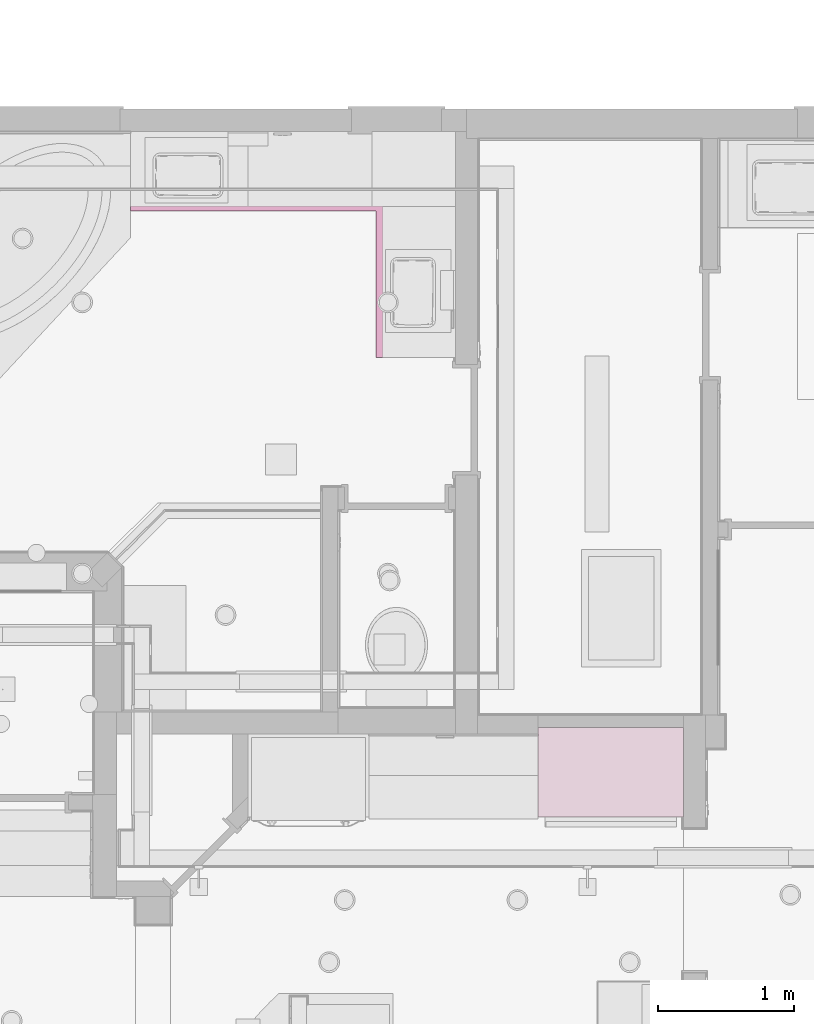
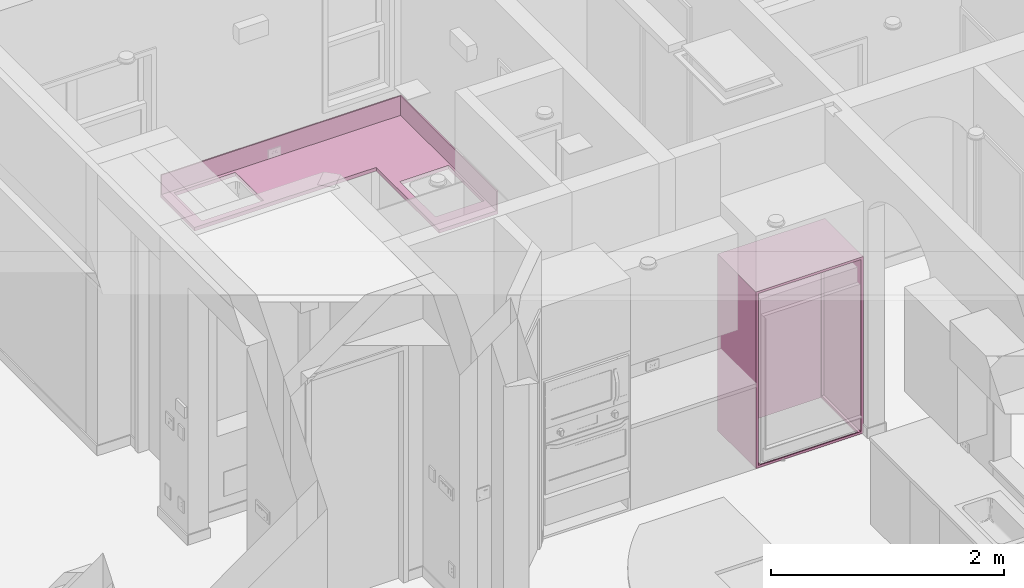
# One storey, part 49 of 60: 2 furnishings.
"""IFC2X3 building model written with IfcOpenShell, lengths in feet."""

from ifc_helpers import new_model, entity, si_unit, converted_unit, direction, frame, origin, place, context, subcontext, project, spatial, faceted_brep, source, transform, mapped, material, type_object, type_shapes, element, save


model = new_model("IFC2X3")

# Units and contexts
model_context = context("Model", 3, precision=0.0001, world=origin(), true_north=direction((6.123031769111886e-17, 1.0)))
plan_context = context("Plan", 3, precision=0.0001, world=origin(), true_north=direction((6.123031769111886e-17, 1.0)))
body_context = subcontext(model_context, "Body", "Model", "MODEL_VIEW")
ifc_project = project(units=[converted_unit("LENGTHUNIT", "FOOT", entity("IfcLengthMeasure", 0.3048), si_unit("LENGTHUNIT", "METRE"), dimensions=[1, 0, 0, 0, 0, 0, 0]), converted_unit("AREAUNIT", "SQUARE FOOT", entity("IfcAreaMeasure", 0.09290304), si_unit("AREAUNIT", "SQUARE_METRE"), dimensions=[2, 0, 0, 0, 0, 0, 0]), converted_unit("PLANEANGLEUNIT", "DEGREE", entity("IfcPlaneAngleMeasure", 0.017453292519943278), si_unit("PLANEANGLEUNIT", "RADIAN"), dimensions=[0, 0, 0, 0, 0, 0, 0])], contexts=[model_context, plan_context])

# Site, building, storey
site_placement = place(None, origin())
site = spatial("IfcSite", under=ifc_project, at=site_placement, Name="Default", CompositionType="ELEMENT")
building_placement = place(site_placement, origin())
building = spatial("IfcBuilding", under=site, at=building_placement, CompositionType="ELEMENT")
storey_placement = place(building_placement, origin())
storey = spatial("IfcBuildingStorey", under=building, at=storey_placement, Name="First floor", CompositionType="ELEMENT", Elevation=0.0)

# Furnishings
ifc_material = material(Name="Default New Material")
furniture_type_1 = type_object("IfcFurnitureType", Name="C_Casework Empty:C_Casework Empty", AssemblyPlace="NOTDEFINED", material=ifc_material)
shared_shape_1 = source(origin(), body_context, "Body", "Brep", [
    faceted_brep([(9.416666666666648, 30.95833333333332, 0.0), (12.916666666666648, 30.95833333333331, 0.0), (12.916666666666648, 30.95833333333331, 6.083333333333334), (9.416666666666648, 30.95833333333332, 6.083333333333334), (12.833333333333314, 30.95833333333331, 6.0), (12.833333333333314, 30.95833333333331, 0.08333333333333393), (9.499999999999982, 30.95833333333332, 0.08333333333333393), (9.499999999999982, 30.95833333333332, 6.0), (9.416666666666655, 33.12499999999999, 6.083333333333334), (9.416666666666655, 33.12499999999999, 0.0), (12.916666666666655, 33.12499999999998, 6.083333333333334), (12.916666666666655, 33.12499999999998, 0.0), (12.749999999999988, 30.994628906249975, 0.0), (12.749999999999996, 33.06787109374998, 0.0), (9.58333333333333, 33.06787109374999, 0.0), (9.583333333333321, 30.99462890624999, 0.0), (9.49999999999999, 33.04166666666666, 6.0), (12.833333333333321, 33.04166666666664, 6.0), (9.49999999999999, 33.04166666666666, 0.08333333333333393), (12.833333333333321, 33.04166666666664, 0.08333333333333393), (12.749999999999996, 33.04166666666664, 0.08333333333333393), (12.749999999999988, 30.994628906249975, 0.08333333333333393), (9.583333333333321, 30.99462890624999, 0.08333333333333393), (9.583333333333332, 33.04166666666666, 0.08333333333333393), (9.58333333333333, 33.04166666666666, 5.749999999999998), (12.749999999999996, 33.04166666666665, 5.749999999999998), (12.749999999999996, 33.067871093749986, 5.749999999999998), (9.58333333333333, 33.06787109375, 5.749999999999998)], [[[0, 1, 2, 3], [4, 5, 6, 7]], [[0, 3, 8, 9]], [[3, 2, 10, 8]], [[2, 1, 11, 10]], [[1, 0, 9, 11], [12, 13, 14, 15]], [[4, 7, 16, 17]], [[7, 6, 18, 16]], [[6, 5, 19, 20, 21, 22, 23, 18]], [[5, 4, 17, 19]], [[9, 8, 10, 11]], [[17, 16, 18, 23, 24, 25, 20, 19]], [[26, 13, 12, 21, 20, 25]], [[14, 27, 24, 23, 22, 15]], [[21, 12, 15, 22]], [[13, 26, 27, 14]], [[27, 26, 25, 24]]]),
])
type_shapes(furniture_type_1, [shared_shape_1])
furnishing_1_placement = place(storey_placement, frame((0.0, 0.0, 10.666666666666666)))
element("IfcFurnishingElement", 1, at=furnishing_1_placement, inside=storey, type_object=furniture_type_1, material=ifc_material, Name="C_Casework Empty:C_Casework Empty", ObjectType="C_Casework Empty:C_Casework Empty", context=body_context, shape_type="MappedRepresentation", body=[
    mapped(shared_shape_1, transform((0.0, 0.0, 0.0), scale=1.0)),
])
furniture_type_2 = type_object("IfcFurnitureType", Name="C_Counter Top L:Counter Top", AssemblyPlace="NOTDEFINED", material=ifc_material)
shared_shape_2 = source(origin(), body_context, "Body", "Brep", [
    faceted_brep([(-0.4166666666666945, 45.582988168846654, 0.125), (5.499999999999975, 45.58298816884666, 0.125), (5.499999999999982, 42.04132150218, 0.125), (7.3749999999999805, 42.04132150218, 0.125), (7.374999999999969, 47.45798816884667, 0.125), (-0.41666666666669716, 47.45798816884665, 0.125), (1.9368489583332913, 45.77048816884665, 0.125), (-0.06315104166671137, 45.770488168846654, 0.125), (-0.06315104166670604, 47.35382150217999, 0.125), (1.9368489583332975, 47.35382150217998, 0.125), (5.729166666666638, 42.64874337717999, 0.125), (5.729166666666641, 44.648743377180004, 0.125), (7.312499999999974, 44.64874337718, 0.125), (7.312499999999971, 42.64874337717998, 0.125), (7.416666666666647, 42.04132150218, 0.0), (5.499999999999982, 42.04132150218, 0.0), (5.499999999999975, 45.58298816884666, 0.0), (-0.4166666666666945, 45.582988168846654, 0.0), (-0.41666666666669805, 47.49965483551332, 0.0), (7.416666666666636, 47.49965483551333, 0.0), (-0.06315104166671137, 45.770488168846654, 0.0), (1.9368489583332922, 45.77048816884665, 0.0), (1.9368489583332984, 47.35382150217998, 0.0), (-0.06315104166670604, 47.35382150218, 0.0), (5.729166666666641, 44.64874337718, 0.0), (5.729166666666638, 42.64874337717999, 0.0), (7.312499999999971, 42.64874337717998, 0.0), (7.312499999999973, 44.64874337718, 0.0), (7.416666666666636, 47.49965483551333, 0.7916666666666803), (7.4166666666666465, 42.04132150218, 0.7916666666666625), (-0.41666666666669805, 47.49965483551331, 0.7916666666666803), (-0.41666666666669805, 47.45798816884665, 0.7916666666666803), (7.3749999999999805, 42.04132150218, 0.7916666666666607), (7.37499999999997, 47.45798816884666, 0.7916666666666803)], [[[0, 1, 2, 3, 4, 5], [6, 7, 8, 9], [10, 11, 12, 13]], [[14, 15, 16, 17, 18, 19], [20, 21, 22, 23], [24, 25, 26, 27]], [[14, 19, 28, 29]], [[19, 18, 30, 28]], [[0, 5, 31, 30, 18, 17]], [[1, 0, 17, 16]], [[2, 1, 16, 15]], [[3, 2, 15, 14, 29, 32]], [[29, 28, 30, 31, 33, 32]], [[4, 3, 32, 33]], [[5, 4, 33, 31]], [[20, 7, 6, 21]], [[21, 6, 9, 22]], [[22, 9, 8, 23]], [[7, 20, 23, 8]], [[24, 11, 10, 25]], [[25, 10, 13, 26]], [[26, 13, 12, 27]], [[11, 24, 27, 12]]]),
])
type_shapes(furniture_type_2, [shared_shape_2])
furnishing_2_placement = place(storey_placement, frame((0.0, 0.0, 13.416666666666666)))
element("IfcFurnishingElement", 2, at=furnishing_2_placement, inside=storey, type_object=furniture_type_2, material=ifc_material, Name="C_Counter Top L:Counter Top", ObjectType="C_Counter Top L:Counter Top", context=body_context, shape_type="MappedRepresentation", body=[
    mapped(shared_shape_2, transform((0.0, 0.0, 0.0), scale=1.0)),
])

save(model, "model.ifc")
